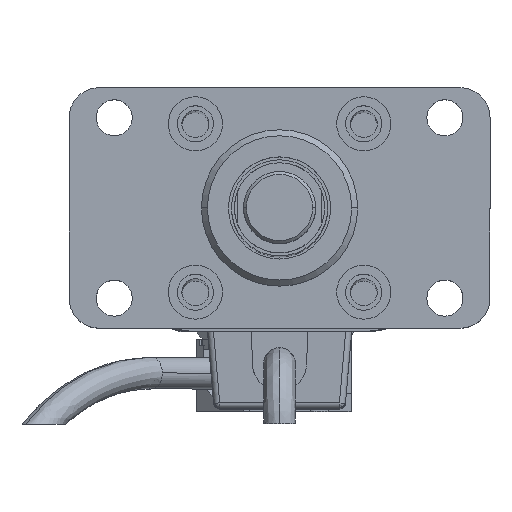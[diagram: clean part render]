
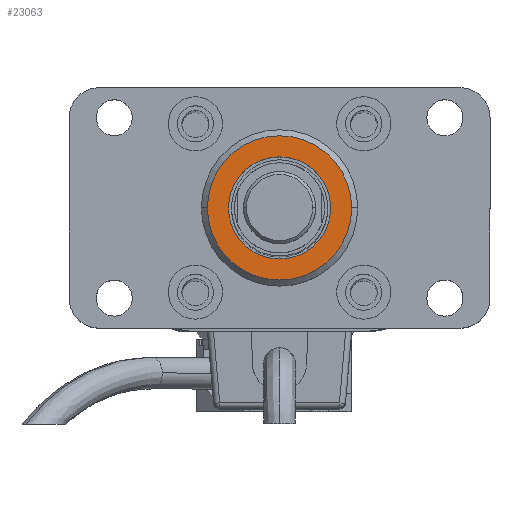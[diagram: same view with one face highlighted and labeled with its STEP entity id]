
A CAD part, top view. The second image highlights one B-rep face of the part: STEP entity #23063.
In plain terms, the highlighted planar face has unit normal (0, 0, 1) as drawn and (0, 0, -1) by its records, which use the part's own axes.
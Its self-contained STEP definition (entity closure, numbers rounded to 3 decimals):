
#534 = CARTESIAN_POINT ( 'NONE',  ( 0., 0., -3. ) ) ;
#1106 = EDGE_CURVE ( 'NONE', #8808, #21330, #16437, .T. ) ;
#1509 = CARTESIAN_POINT ( 'NONE',  ( 0., 0., -3. ) ) ;
#1992 = FACE_OUTER_BOUND ( 'NONE', #8059, .T. ) ;
#3367 = DIRECTION ( 'NONE',  ( 0., 0., -1. ) ) ;
#3715 = DIRECTION ( 'NONE',  ( -1., 0., 0. ) ) ;
#4219 = ORIENTED_EDGE ( 'NONE', *, *, #1106, .T. ) ;
#5280 = AXIS2_PLACEMENT_3D ( 'NONE', #23080, #16585, #5534 ) ;
#5534 = DIRECTION ( 'NONE',  ( -1., 0., 0. ) ) ;
#5743 = AXIS2_PLACEMENT_3D ( 'NONE', #534, #13792, #15885 ) ;
#6585 = ORIENTED_EDGE ( 'NONE', *, *, #18881, .F. ) ;
#7668 = AXIS2_PLACEMENT_3D ( 'NONE', #16507, #3367, #18690 ) ;
#8059 = EDGE_LOOP ( 'NONE', ( #23379, #4219 ) ) ;
#8151 = FACE_BOUND ( 'NONE', #15926, .T. ) ;
#8205 = DIRECTION ( 'NONE',  ( 0., 0., -1. ) ) ;
#8702 = CIRCLE ( 'NONE', #7668, 8.5 ) ;
#8808 = VERTEX_POINT ( 'NONE', #26257 ) ;
#10592 = CARTESIAN_POINT ( 'NONE',  ( -8.5, 0., -3. ) ) ;
#11232 = DIRECTION ( 'NONE',  ( 0., 0., -1. ) ) ;
#12565 = AXIS2_PLACEMENT_3D ( 'NONE', #26491, #11232, #19956 ) ;
#13063 = EDGE_CURVE ( 'NONE', #21330, #8808, #13217, .T. ) ;
#13217 = CIRCLE ( 'NONE', #5280, 12. ) ;
#13235 = VERTEX_POINT ( 'NONE', #10592 ) ;
#13270 = ORIENTED_EDGE ( 'NONE', *, *, #13987, .F. ) ;
#13792 = DIRECTION ( 'NONE',  ( 0., 0., -1. ) ) ;
#13987 = EDGE_CURVE ( 'NONE', #20433, #13235, #8702, .T. ) ;
#15885 = DIRECTION ( 'NONE',  ( -1., 0., 0. ) ) ;
#15926 = EDGE_LOOP ( 'NONE', ( #13270, #6585 ) ) ;
#16437 = CIRCLE ( 'NONE', #12565, 12. ) ;
#16507 = CARTESIAN_POINT ( 'NONE',  ( 0., 0., -3. ) ) ;
#16585 = DIRECTION ( 'NONE',  ( 0., 0., -1. ) ) ;
#16757 = CIRCLE ( 'NONE', #5743, 8.5 ) ;
#18690 = DIRECTION ( 'NONE',  ( -1., 0., 0. ) ) ;
#18881 = EDGE_CURVE ( 'NONE', #13235, #20433, #16757, .T. ) ;
#18937 = PLANE ( 'NONE',  #21244 ) ;
#19956 = DIRECTION ( 'NONE',  ( -1., 0., 0. ) ) ;
#20433 = VERTEX_POINT ( 'NONE', #27727 ) ;
#21244 = AXIS2_PLACEMENT_3D ( 'NONE', #1509, #8205, #3715 ) ;
#21330 = VERTEX_POINT ( 'NONE', #24963 ) ;
#23063 = ADVANCED_FACE ( 'NONE', ( #1992, #8151 ), #18937, .T. ) ;
#23080 = CARTESIAN_POINT ( 'NONE',  ( 0., 0., -3. ) ) ;
#23379 = ORIENTED_EDGE ( 'NONE', *, *, #13063, .T. ) ;
#24963 = CARTESIAN_POINT ( 'NONE',  ( 12., 0., -3. ) ) ;
#26257 = CARTESIAN_POINT ( 'NONE',  ( -12., 0., -3. ) ) ;
#26491 = CARTESIAN_POINT ( 'NONE',  ( 0., 0., -3. ) ) ;
#27727 = CARTESIAN_POINT ( 'NONE',  ( 8.5, 0., -3. ) ) ;
